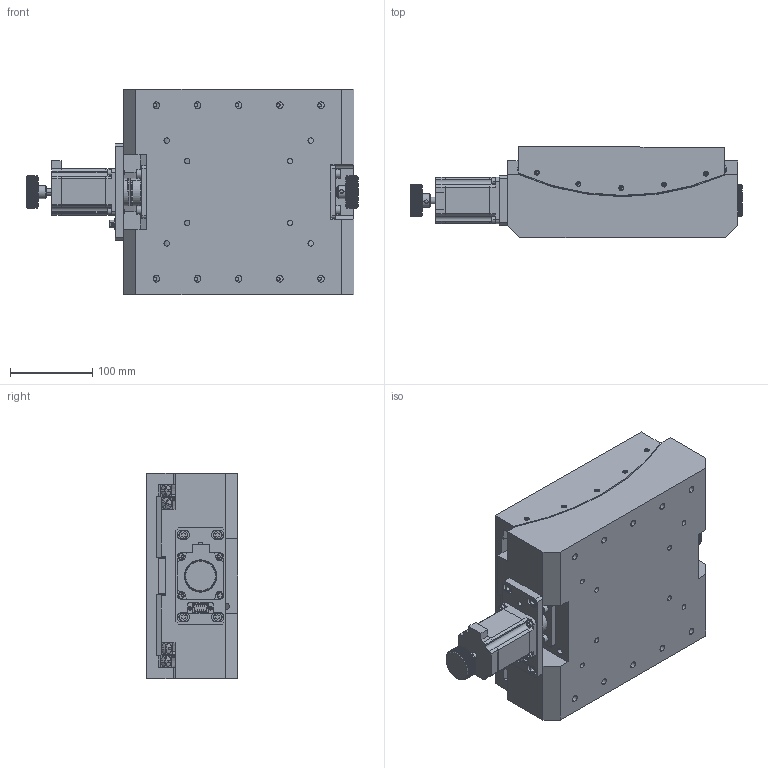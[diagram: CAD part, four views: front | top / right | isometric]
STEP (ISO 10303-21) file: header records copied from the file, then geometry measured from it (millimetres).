
FILE_DESCRIPTION (( 'STEP AP203' ), '1' );
FILE_NAME ('PT-GD250蚾饜WF.STEP', '2025-05-14T09:33:35', ( '' ), ( '' ), 'SwSTEP 2.0', 'SolidWorks 2023', '' );
FILE_SCHEMA (( 'CONFIG_CONTROL_DESIGN' ));
Length unit declared in the file: millimetre
Products named in the file (1): PT-GD250装配WF
Bounding box: 403.5 x 110.78 x 250 mm (x, y, z)
Surface area: 470063.3 mm2 (no closed solid volume)
Topology: 0 solids, 65 shells, 1982 faces, 6552 edges, 4504 vertices
Faces by surface type: plane 950, cylinder 902, cone 59, sphere 40, torus 29, bspline 2
Entity records: 81290 total; most frequent: CARTESIAN_POINT 27047, ORIENTED_EDGE 11637, DIRECTION 10089, EDGE_CURVE 6536, VERTEX_POINT 4496, AXIS2_PLACEMENT_3D 3663, LINE 2763, VECTOR 2763
